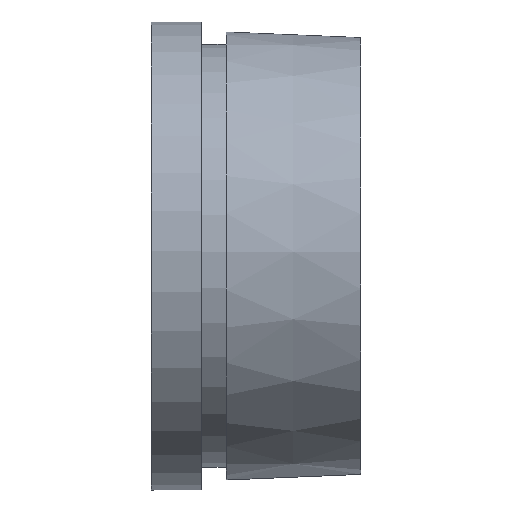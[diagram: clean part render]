
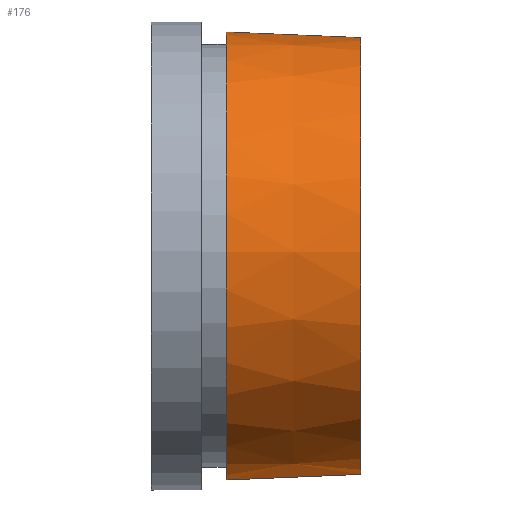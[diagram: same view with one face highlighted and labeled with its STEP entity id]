
A CAD part, top view. The second image highlights one B-rep face of the part: STEP entity #176.
In plain terms, the highlighted conical face has half-angle 2.386 degrees and reference radius 35.448 mm.
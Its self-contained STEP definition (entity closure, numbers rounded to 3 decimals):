
#18=CONICAL_SURFACE('',#211,35.448,0.042);
#19=CIRCLE('',#209,35.896);
#21=CIRCLE('',#212,35.);
#30=FACE_OUTER_BOUND('',#40,.T.);
#40=EDGE_LOOP('',(#139,#140,#141,#142));
#51=LINE('',#290,#67);
#59=LINE('',#307,#75);
#67=VECTOR('',#232,10.);
#75=VECTOR('',#242,10.);
#83=VERTEX_POINT('',#287);
#84=VERTEX_POINT('',#289);
#91=VERTEX_POINT('',#304);
#92=VERTEX_POINT('',#306);
#99=EDGE_CURVE('',#84,#83,#51,.T.);
#107=EDGE_CURVE('',#92,#91,#59,.T.);
#111=EDGE_CURVE('',#91,#84,#19,.T.);
#113=EDGE_CURVE('',#92,#83,#21,.T.);
#139=ORIENTED_EDGE('',*,*,#99,.T.);
#140=ORIENTED_EDGE('',*,*,#113,.F.);
#141=ORIENTED_EDGE('',*,*,#107,.T.);
#142=ORIENTED_EDGE('',*,*,#111,.T.);
#176=ADVANCED_FACE('',(#30),#18,.T.);
#209=AXIS2_PLACEMENT_3D('',#314,#248,#249);
#211=AXIS2_PLACEMENT_3D('',#316,#252,#253);
#212=AXIS2_PLACEMENT_3D('',#317,#254,#255);
#232=DIRECTION('',(0.999,0.042,0.));
#242=DIRECTION('',(-0.999,-0.042,0.));
#248=DIRECTION('center_axis',(1.,0.,0.));
#249=DIRECTION('ref_axis',(0.,0.,-1.));
#252=DIRECTION('center_axis',(-1.,0.,0.));
#253=DIRECTION('ref_axis',(0.,1.,0.));
#254=DIRECTION('center_axis',(1.,0.,0.));
#255=DIRECTION('ref_axis',(0.,0.,-1.));
#287=CARTESIAN_POINT('',(-3.5,-34.975,1.333));
#289=CARTESIAN_POINT('',(-25.,-35.871,1.333));
#290=CARTESIAN_POINT('',(-14.25,-35.423,1.333));
#304=CARTESIAN_POINT('',(-25.,-35.871,-1.333));
#306=CARTESIAN_POINT('',(-3.5,-34.975,-1.333));
#307=CARTESIAN_POINT('',(-14.25,-35.423,-1.333));
#314=CARTESIAN_POINT('Origin',(-25.,0.,0.));
#316=CARTESIAN_POINT('Origin',(-14.25,0.,0.));
#317=CARTESIAN_POINT('Origin',(-3.5,0.,
0.));
